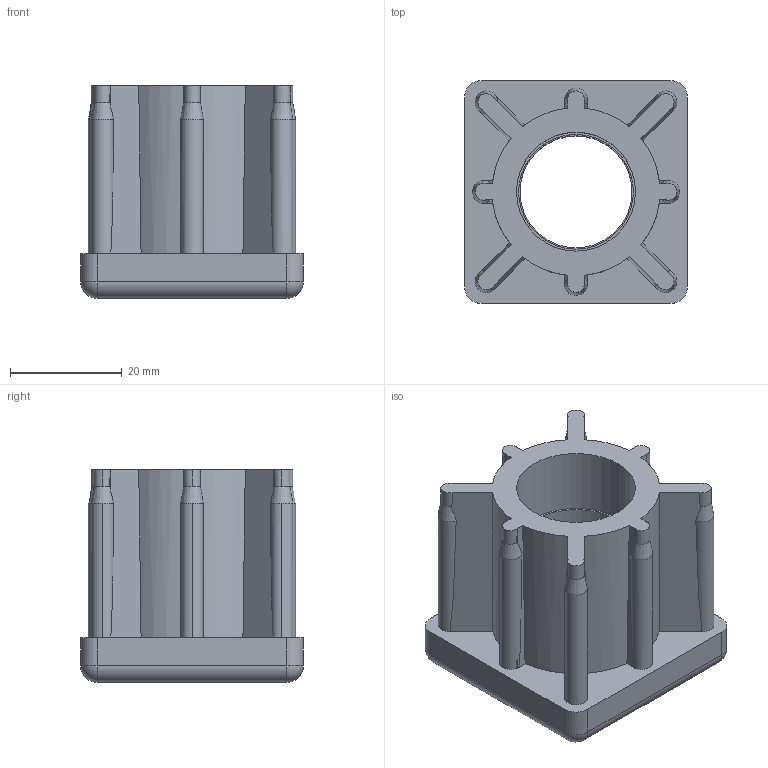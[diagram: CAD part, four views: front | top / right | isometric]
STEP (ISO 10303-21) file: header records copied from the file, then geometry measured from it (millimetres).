
FILE_DESCRIPTION (( 'STEP AP214' ), '1' );
FILE_NAME ('42006840220.STEP', '2020-02-26T10:39:47', ( '' ), ( '' ), 'SwSTEP 2.0', 'SolidWorks 2018', '' );
FILE_SCHEMA (( 'AUTOMOTIVE_DESIGN' ));
Length unit declared in the file: millimetre
Products named in the file (1): 42006840220
Bounding box: 39.8 x 39.8 x 38 mm (x, y, z)
Volume: 26236.2 mm3; surface area: 14867.4 mm2
Topology: 2 solids, 2 shells, 134 faces, 365 edges, 234 vertices
Faces by surface type: cylinder 56, plane 55, cone 19, sphere 4
Entity records: 4540 total; most frequent: CARTESIAN_POINT 1284, ORIENTED_EDGE 722, DIRECTION 653, EDGE_CURVE 361, AXIS2_PLACEMENT_3D 259, VERTEX_POINT 234, EDGE_LOOP 141, VECTOR 135
